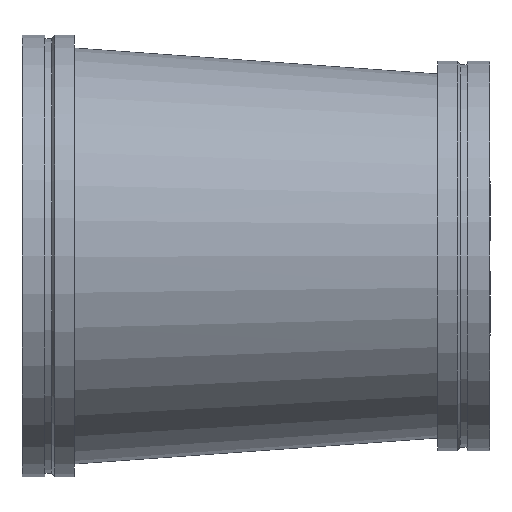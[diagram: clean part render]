
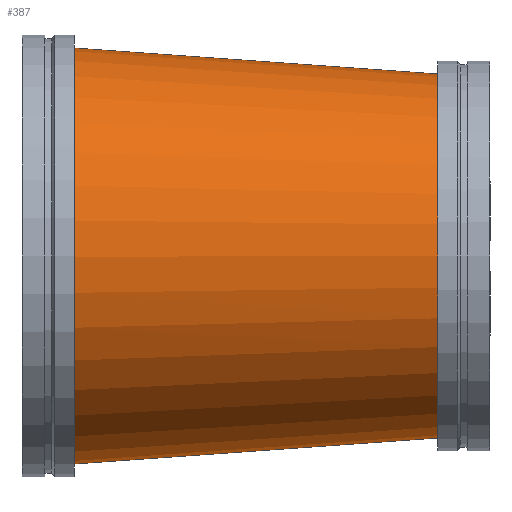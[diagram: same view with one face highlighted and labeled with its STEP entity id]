
A CAD part, front view. The second image highlights one B-rep face of the part: STEP entity #387.
In plain terms, the highlighted free-form (B-spline) face has degree [1, 2] with [2, 9] control points.
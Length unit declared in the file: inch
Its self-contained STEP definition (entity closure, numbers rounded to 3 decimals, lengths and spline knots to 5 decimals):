
#46=B_SPLINE_CURVE_WITH_KNOTS('',1,(#747,#748),.UNSPECIFIED.,.F.,.F.,(2,
2),(-1.7592,-0.00036),.UNSPECIFIED.);
#48=(
BOUNDED_SURFACE()
B_SPLINE_SURFACE(1,2,((#729,#730,#731,#732,#733,#734,#735,#736,#737),(#738,
#739,#740,#741,#742,#743,#744,#745,#746)),.UNSPECIFIED.,.F.,.T.,.F.)
B_SPLINE_SURFACE_WITH_KNOTS((2,2),(3,2,2,2,3),(-0.07107,1.82107),
(-3.14159,-1.5708,0.,1.5708,3.14159),
 .UNSPECIFIED.)
GEOMETRIC_REPRESENTATION_ITEM()
RATIONAL_B_SPLINE_SURFACE(((1.,0.707,1.,0.707,1.,
0.707,1.,0.707,1.),(1.,0.707,1.,0.707,
1.,0.707,1.,0.707,1.)))
REPRESENTATION_ITEM('')
SURFACE()
);
#98=FACE_OUTER_BOUND('',#120,.T.);
#120=EDGE_LOOP('',(#321,#322,#323,#324,#325,#326));
#129=CIRCLE('',#415,14.);
#130=CIRCLE('',#416,14.);
#153=CIRCLE('',#450,16.);
#154=CIRCLE('',#451,16.);
#166=VERTEX_POINT('',#628);
#167=VERTEX_POINT('',#629);
#190=VERTEX_POINT('',#695);
#191=VERTEX_POINT('',#696);
#203=EDGE_CURVE('',#166,#167,#129,.T.);
#204=EDGE_CURVE('',#167,#166,#130,.T.);
#235=EDGE_CURVE('',#190,#191,#153,.T.);
#236=EDGE_CURVE('',#191,#190,#154,.T.);
#243=EDGE_CURVE('',#167,#191,#46,.T.);
#321=ORIENTED_EDGE('',*,*,#203,.T.);
#322=ORIENTED_EDGE('',*,*,#243,.T.);
#323=ORIENTED_EDGE('',*,*,#236,.T.);
#324=ORIENTED_EDGE('',*,*,#235,.T.);
#325=ORIENTED_EDGE('',*,*,#243,.F.);
#326=ORIENTED_EDGE('',*,*,#204,.T.);
#387=ADVANCED_FACE('',(#98),#48,.F.);
#415=AXIS2_PLACEMENT_3D('',#630,#486,#487);
#416=AXIS2_PLACEMENT_3D('',#631,#488,#489);
#450=AXIS2_PLACEMENT_3D('',#697,#564,#565);
#451=AXIS2_PLACEMENT_3D('',#698,#566,#567);
#486=DIRECTION('center_axis',(-1.,0.,0.));
#487=DIRECTION('ref_axis',(0.,-1.,0.));
#488=DIRECTION('center_axis',(-1.,0.,0.));
#489=DIRECTION('ref_axis',(0.,-1.,0.));
#564=DIRECTION('center_axis',(1.,0.,0.));
#565=DIRECTION('ref_axis',(0.,1.,0.));
#566=DIRECTION('center_axis',(1.,0.,0.));
#567=DIRECTION('ref_axis',(0.,1.,0.));
#628=CARTESIAN_POINT('',(32.,-16.,0.));
#629=CARTESIAN_POINT('',(32.,-2.07071,13.99982));
#630=CARTESIAN_POINT('Origin',(32.,-2.,0.));
#631=CARTESIAN_POINT('Origin',(32.,-2.,0.));
#695=CARTESIAN_POINT('',(4.,16.,0.));
#696=CARTESIAN_POINT('',(4.,-0.08081,15.9998));
#697=CARTESIAN_POINT('Origin',(4.,0.,0.));
#698=CARTESIAN_POINT('Origin',(4.,0.,0.));
#729=CARTESIAN_POINT('Ctrl Pts',(2.86292,0.,
16.08102));
#730=CARTESIAN_POINT('Ctrl Pts',(1.72583,-16.,16.08102));
#731=CARTESIAN_POINT('Ctrl Pts',(1.72583,-16.,0.));
#732=CARTESIAN_POINT('Ctrl Pts',(1.72583,-16.,-16.08102));
#733=CARTESIAN_POINT('Ctrl Pts',(2.86292,0.,
-16.08102));
#734=CARTESIAN_POINT('Ctrl Pts',(4.,16.,-16.08102));
#735=CARTESIAN_POINT('Ctrl Pts',(4.,16.,0.));
#736=CARTESIAN_POINT('Ctrl Pts',(4.,16.,16.08102));
#737=CARTESIAN_POINT('Ctrl Pts',(2.86292,0.,
16.08102));
#738=CARTESIAN_POINT('Ctrl Pts',(32.98495,-2.14071,13.92947));
#739=CARTESIAN_POINT('Ctrl Pts',(32.,-16.,13.92947));
#740=CARTESIAN_POINT('Ctrl Pts',(32.,-16.,0.));
#741=CARTESIAN_POINT('Ctrl Pts',(32.,-16.,-13.92947));
#742=CARTESIAN_POINT('Ctrl Pts',(32.98495,-2.14071,-13.92947));
#743=CARTESIAN_POINT('Ctrl Pts',(33.9699,11.71859,-13.92947));
#744=CARTESIAN_POINT('Ctrl Pts',(33.9699,11.71859,0.));
#745=CARTESIAN_POINT('Ctrl Pts',(33.9699,11.71859,13.92947));
#746=CARTESIAN_POINT('Ctrl Pts',(32.98495,-2.14071,13.92947));
#747=CARTESIAN_POINT('Ctrl Pts',(32.,-2.07071,13.99982));
#748=CARTESIAN_POINT('Ctrl Pts',(4.,-0.08081,15.9998));
